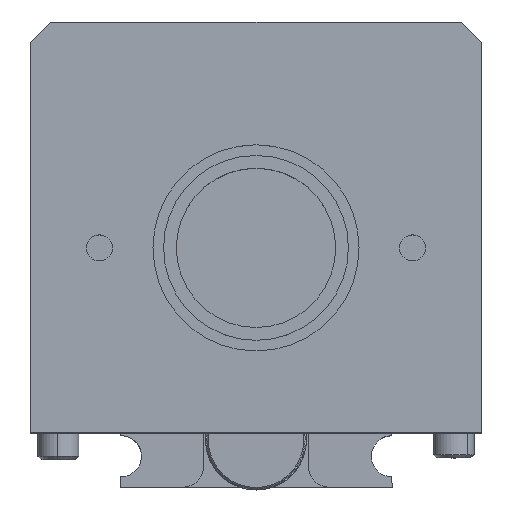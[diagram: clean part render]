
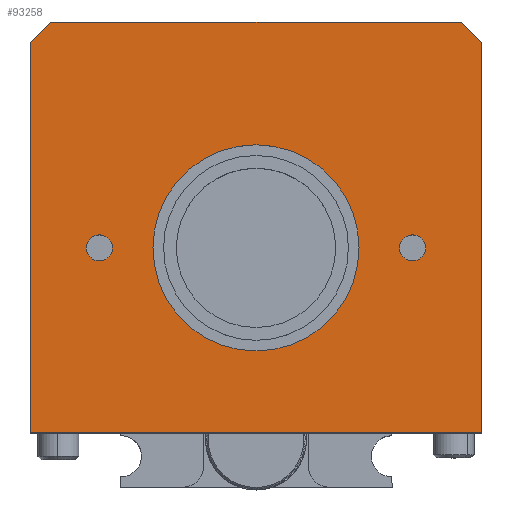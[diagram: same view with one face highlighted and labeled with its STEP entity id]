
A CAD part, top view. The second image highlights one B-rep face of the part: STEP entity #93258.
In plain terms, the highlighted planar face has unit normal (0, 0, 1).
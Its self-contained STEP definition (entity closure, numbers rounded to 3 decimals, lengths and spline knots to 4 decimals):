
#9 = LINE ( 'NONE', #53539, #50373 ) ;
#519 = EDGE_CURVE ( 'NONE', #87372, #16709, #76710, .T. ) ;
#2422 = CARTESIAN_POINT ( 'NONE',  ( -1.6623, -0.4246, 3.2124 ) ) ;
#3896 = DIRECTION ( 'NONE',  ( 0., 0., 1. ) ) ;
#8860 = CARTESIAN_POINT ( 'NONE',  ( -1.0348, -0.4246, 3.2124 ) ) ;
#9447 = CARTESIAN_POINT ( 'NONE',  ( -2.4098, -1.5496, 3.2124 ) ) ;
#9518 = DIRECTION ( 'NONE',  ( -1., 0., 0. ) ) ;
#10169 = EDGE_CURVE ( 'NONE', #124679, #82188, #121034, .T. ) ;
#12496 = DIRECTION ( 'NONE',  ( 1., 0., 0. ) ) ;
#14026 = VERTEX_POINT ( 'NONE', #85630 ) ;
#14437 = DIRECTION ( 'NONE',  ( -0.707, 0.707, 0. ) ) ;
#14502 = ORIENTED_EDGE ( 'NONE', *, *, #88803, .F. ) ;
#15090 = PLANE ( 'NONE',  #71016 ) ;
#16709 = VERTEX_POINT ( 'NONE', #97144 ) ;
#17877 = ORIENTED_EDGE ( 'NONE', *, *, #95201, .T. ) ;
#19781 = DIRECTION ( 'NONE',  ( 0., 1., 0. ) ) ;
#22544 = DIRECTION ( 'NONE',  ( 1., 0., 0. ) ) ;
#22901 = ORIENTED_EDGE ( 'NONE', *, *, #109603, .T. ) ;
#23376 = AXIS2_PLACEMENT_3D ( 'NONE', #54939, #87076, #33789 ) ;
#24499 = CARTESIAN_POINT ( 'NONE',  ( -2.4098, -1.5496, 3.2124 ) ) ;
#28295 = CARTESIAN_POINT ( 'NONE',  ( -2.4098, 0.8254, 3.2124 ) ) ;
#28847 = DIRECTION ( 'NONE',  ( 0., 0., 1. ) ) ;
#31095 = VECTOR ( 'NONE', #79234, 39.3701 ) ;
#31656 = EDGE_LOOP ( 'NONE', ( #17877, #61201, #22901, #87903, #79685, #117173 ) ) ;
#33076 = EDGE_CURVE ( 'NONE', #97280, #38991, #112454, .T. ) ;
#33675 = CARTESIAN_POINT ( 'NONE',  ( 0.1527, 1.0129, 3.2124 ) ) ;
#33789 = DIRECTION ( 'NONE',  ( 1., 0., 0. ) ) ;
#34081 = FACE_BOUND ( 'NONE', #128224, .T. ) ;
#34280 = ORIENTED_EDGE ( 'NONE', *, *, #63224, .F. ) ;
#35487 = CARTESIAN_POINT ( 'NONE',  ( 0.2152, 0.9504, 3.2124 ) ) ;
#35545 = AXIS2_PLACEMENT_3D ( 'NONE', #8860, #84148, #105723 ) ;
#37136 = AXIS2_PLACEMENT_3D ( 'NONE', #139177, #75767, #22544 ) ;
#38013 = EDGE_CURVE ( 'NONE', #38991, #97280, #56002, .T. ) ;
#38991 = VERTEX_POINT ( 'NONE', #2422 ) ;
#40844 = EDGE_LOOP ( 'NONE', ( #34280, #111691 ) ) ;
#41666 = CARTESIAN_POINT ( 'NONE',  ( 0.3402, -1.5496, 3.2124 ) ) ;
#43896 = LINE ( 'NONE', #97112, #118052 ) ;
#49074 = VECTOR ( 'NONE', #14437, 39.3701 ) ;
#49098 = CARTESIAN_POINT ( 'NONE',  ( -1.9878, -0.4246, 3.2124 ) ) ;
#50021 = DIRECTION ( 'NONE',  ( 1., 0., 0. ) ) ;
#50373 = VECTOR ( 'NONE', #19781, 39.3701 ) ;
#50681 = EDGE_CURVE ( 'NONE', #85298, #134124, #96331, .T. ) ;
#51373 = CARTESIAN_POINT ( 'NONE',  ( -2.2848, 0.9504, 3.2124 ) ) ;
#52205 = LINE ( 'NONE', #9447, #55571 ) ;
#53293 = EDGE_CURVE ( 'NONE', #94216, #14026, #116105, .T. ) ;
#53539 = CARTESIAN_POINT ( 'NONE',  ( 0.3402, 0.9504, 3.2124 ) ) ;
#54303 = FACE_BOUND ( 'NONE', #102210, .T. ) ;
#54457 = VERTEX_POINT ( 'NONE', #41666 ) ;
#54575 = LINE ( 'NONE', #107308, #132099 ) ;
#54939 = CARTESIAN_POINT ( 'NONE',  ( -1.0348, -0.4246, 3.2124 ) ) ;
#55571 = VECTOR ( 'NONE', #94199, 39.3701 ) ;
#56002 = CIRCLE ( 'NONE', #23376, 0.6275 ) ;
#61201 = ORIENTED_EDGE ( 'NONE', *, *, #50681, .T. ) ;
#63224 = EDGE_CURVE ( 'NONE', #82188, #124679, #87196, .T. ) ;
#68339 = CARTESIAN_POINT ( 'NONE',  ( -2.4098, 0.9504, 3.2124 ) ) ;
#68774 = CARTESIAN_POINT ( 'NONE',  ( -0.4073, -0.4246, 3.2124 ) ) ;
#70040 = CARTESIAN_POINT ( 'NONE',  ( -0.1613, -0.4246, 3.2124 ) ) ;
#71016 = AXIS2_PLACEMENT_3D ( 'NONE', #24499, #3896, #99848 ) ;
#75767 = DIRECTION ( 'NONE',  ( 0., 0., 1. ) ) ;
#76710 = LINE ( 'NONE', #68339, #31095 ) ;
#77880 = CARTESIAN_POINT ( 'NONE',  ( -0.0818, -0.4246, 3.2124 ) ) ;
#79234 = DIRECTION ( 'NONE',  ( 0., -1., 0. ) ) ;
#79685 = ORIENTED_EDGE ( 'NONE', *, *, #519, .T. ) ;
#81959 = CARTESIAN_POINT ( 'NONE',  ( -2.0673, -0.4246, 3.2124 ) ) ;
#82188 = VERTEX_POINT ( 'NONE', #70040 ) ;
#84148 = DIRECTION ( 'NONE',  ( 0., 0., 1. ) ) ;
#85298 = VERTEX_POINT ( 'NONE', #131511 ) ;
#85545 = DIRECTION ( 'NONE',  ( 1., 0., 0. ) ) ;
#85630 = CARTESIAN_POINT ( 'NONE',  ( -1.9083, -0.4246, 3.2124 ) ) ;
#86206 = ORIENTED_EDGE ( 'NONE', *, *, #33076, .F. ) ;
#87076 = DIRECTION ( 'NONE',  ( 0., 0., 1. ) ) ;
#87196 = CIRCLE ( 'NONE', #87731, 0.0795 ) ;
#87372 = VERTEX_POINT ( 'NONE', #28295 ) ;
#87730 = ORIENTED_EDGE ( 'NONE', *, *, #38013, .F. ) ;
#87731 = AXIS2_PLACEMENT_3D ( 'NONE', #77880, #120195, #12496 ) ;
#87903 = ORIENTED_EDGE ( 'NONE', *, *, #134503, .T. ) ;
#88803 = EDGE_CURVE ( 'NONE', #14026, #94216, #94020, .T. ) ;
#93258 = ADVANCED_FACE ( 'NONE', ( #54303, #101525, #34081, #136780 ), #15090, .T. ) ;
#94020 = CIRCLE ( 'NONE', #37136, 0.0795 ) ;
#94199 = DIRECTION ( 'NONE',  ( 1., 0., 0. ) ) ;
#94216 = VERTEX_POINT ( 'NONE', #81959 ) ;
#95201 = EDGE_CURVE ( 'NONE', #54457, #85298, #9, .T. ) ;
#96331 = LINE ( 'NONE', #33675, #49074 ) ;
#97112 = CARTESIAN_POINT ( 'NONE',  ( -3.5973, -0.3621, 3.2124 ) ) ;
#97144 = CARTESIAN_POINT ( 'NONE',  ( -2.4098, -1.5496, 3.2124 ) ) ;
#97280 = VERTEX_POINT ( 'NONE', #68774 ) ;
#98528 = AXIS2_PLACEMENT_3D ( 'NONE', #105255, #106665, #85545 ) ;
#99848 = DIRECTION ( 'NONE',  ( 1., 0., 0. ) ) ;
#100910 = AXIS2_PLACEMENT_3D ( 'NONE', #49098, #28847, #50021 ) ;
#101525 = FACE_BOUND ( 'NONE', #40844, .T. ) ;
#102210 = EDGE_LOOP ( 'NONE', ( #117712, #14502 ) ) ;
#105083 = CARTESIAN_POINT ( 'NONE',  ( -0.0023, -0.4246, 3.2124 ) ) ;
#105255 = CARTESIAN_POINT ( 'NONE',  ( -0.0818, -0.4246, 3.2124 ) ) ;
#105317 = VERTEX_POINT ( 'NONE', #51373 ) ;
#105723 = DIRECTION ( 'NONE',  ( 1., 0., 0. ) ) ;
#106665 = DIRECTION ( 'NONE',  ( 0., 0., 1. ) ) ;
#106954 = DIRECTION ( 'NONE',  ( -0.707, -0.707, 0. ) ) ;
#107308 = CARTESIAN_POINT ( 'NONE',  ( -2.4098, 0.9504, 3.2124 ) ) ;
#109603 = EDGE_CURVE ( 'NONE', #134124, #105317, #54575, .T. ) ;
#111691 = ORIENTED_EDGE ( 'NONE', *, *, #10169, .F. ) ;
#112454 = CIRCLE ( 'NONE', #35545, 0.6275 ) ;
#116105 = CIRCLE ( 'NONE', #100910, 0.0795 ) ;
#117173 = ORIENTED_EDGE ( 'NONE', *, *, #134872, .T. ) ;
#117712 = ORIENTED_EDGE ( 'NONE', *, *, #53293, .F. ) ;
#118052 = VECTOR ( 'NONE', #106954, 39.3701 ) ;
#120195 = DIRECTION ( 'NONE',  ( 0., 0., 1. ) ) ;
#121034 = CIRCLE ( 'NONE', #98528, 0.0795 ) ;
#124679 = VERTEX_POINT ( 'NONE', #105083 ) ;
#128224 = EDGE_LOOP ( 'NONE', ( #86206, #87730 ) ) ;
#131511 = CARTESIAN_POINT ( 'NONE',  ( 0.3402, 0.8254, 3.2124 ) ) ;
#132099 = VECTOR ( 'NONE', #9518, 39.3701 ) ;
#134124 = VERTEX_POINT ( 'NONE', #35487 ) ;
#134503 = EDGE_CURVE ( 'NONE', #105317, #87372, #43896, .T. ) ;
#134872 = EDGE_CURVE ( 'NONE', #16709, #54457, #52205, .T. ) ;
#136780 = FACE_OUTER_BOUND ( 'NONE', #31656, .T. ) ;
#139177 = CARTESIAN_POINT ( 'NONE',  ( -1.9878, -0.4246, 3.2124 ) ) ;
